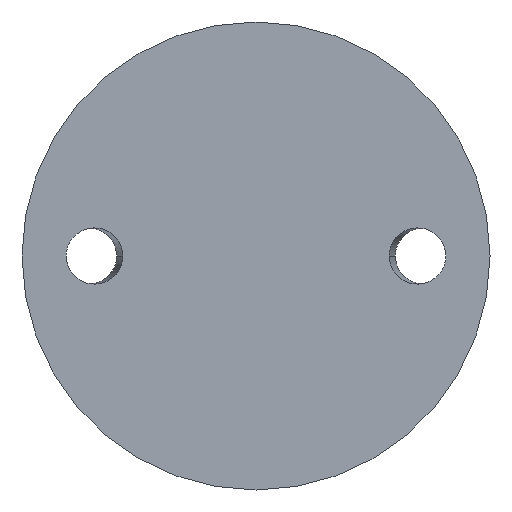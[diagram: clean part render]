
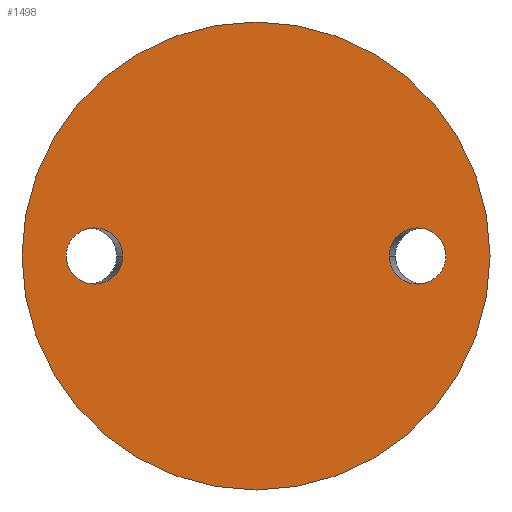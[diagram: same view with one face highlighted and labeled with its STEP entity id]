
A CAD part, front view. The second image highlights one B-rep face of the part: STEP entity #1498.
In plain terms, the highlighted planar face has unit normal (0, -1, 0).
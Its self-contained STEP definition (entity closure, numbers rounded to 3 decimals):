
#80 = CARTESIAN_POINT ( 'NONE',  ( -28.441, 0., 0. ) ) ;
#95 = AXIS2_PLACEMENT_3D ( 'NONE', #843, #534, #1346 ) ;
#101 = CARTESIAN_POINT ( 'NONE',  ( 40.559, 0., 12. ) ) ;
#102 = VERTEX_POINT ( 'NONE', #1554 ) ;
#137 = DIRECTION ( 'NONE',  ( 0., 1., 0. ) ) ;
#149 =( BOUNDED_CURVE ( )  B_SPLINE_CURVE ( 3, ( #1726, #101, #777, #1245 ),
 .UNSPECIFIED., .F., .F. ) 
 B_SPLINE_CURVE_WITH_KNOTS ( ( 4, 4 ),
 ( 0., 3.142 ),
 .UNSPECIFIED. ) 
 CURVE ( )  GEOMETRIC_REPRESENTATION_ITEM ( )  RATIONAL_B_SPLINE_CURVE ( ( 1., 0.333, 0.333, 1. ) ) 
 REPRESENTATION_ITEM ( '' )  );
#221 = ORIENTED_EDGE ( 'NONE', *, *, #1974, .F. ) ;
#271 = EDGE_CURVE ( 'NONE', #810, #1458, #149, .T. ) ;
#279 = CARTESIAN_POINT ( 'NONE',  ( -40.559, 0., 12. ) ) ;
#313 = CIRCLE ( 'NONE', #1469, 50. ) ;
#439 = EDGE_CURVE ( 'NONE', #549, #102, #1839, .T. ) ;
#503 = DIRECTION ( 'NONE',  ( 0., 0., 1. ) ) ;
#513 = ORIENTED_EDGE ( 'NONE', *, *, #439, .F. ) ;
#516 = VERTEX_POINT ( 'NONE', #1539 ) ;
#534 = DIRECTION ( 'NONE',  ( 0., 1., 0. ) ) ;
#545 = EDGE_CURVE ( 'NONE', #516, #568, #313, .T. ) ;
#549 = VERTEX_POINT ( 'NONE', #780 ) ;
#568 = VERTEX_POINT ( 'NONE', #1711 ) ;
#680 = ORIENTED_EDGE ( 'NONE', *, *, #545, .F. ) ;
#737 = CARTESIAN_POINT ( 'NONE',  ( -28.441, 0., 12. ) ) ;
#777 = CARTESIAN_POINT ( 'NONE',  ( 28.441, 0., 12. ) ) ;
#780 = CARTESIAN_POINT ( 'NONE',  ( -28.441, 0., 0. ) ) ;
#793 = CARTESIAN_POINT ( 'NONE',  ( -40.559, 0., 0. ) ) ;
#800 = CARTESIAN_POINT ( 'NONE',  ( -40.559, 0., -12. ) ) ;
#810 = VERTEX_POINT ( 'NONE', #1892 ) ;
#843 = CARTESIAN_POINT ( 'NONE',  ( 50., 0., 0. ) ) ;
#844 = EDGE_CURVE ( 'NONE', #102, #549, #1060, .T. ) ;
#853 = CARTESIAN_POINT ( 'NONE',  ( 40.559, 0., 0. ) ) ;
#954 = ORIENTED_EDGE ( 'NONE', *, *, #1056, .F. ) ;
#961 = CARTESIAN_POINT ( 'NONE',  ( 28.441, 0., 0. ) ) ;
#992 =( BOUNDED_CURVE ( )  B_SPLINE_CURVE ( 3, ( #961, #1749, #1018, #853 ),
 .UNSPECIFIED., .F., .F. ) 
 B_SPLINE_CURVE_WITH_KNOTS ( ( 4, 4 ),
 ( 3.142, 6.283 ),
 .UNSPECIFIED. ) 
 CURVE ( )  GEOMETRIC_REPRESENTATION_ITEM ( )  RATIONAL_B_SPLINE_CURVE ( ( 1., 0.333, 0.333, 1. ) ) 
 REPRESENTATION_ITEM ( '' )  );
#1013 = FACE_BOUND ( 'NONE', #1383, .T. ) ;
#1018 = CARTESIAN_POINT ( 'NONE',  ( 40.559, 0., -12. ) ) ;
#1056 = EDGE_CURVE ( 'NONE', #1458, #810, #992, .T. ) ;
#1060 =( BOUNDED_CURVE ( )  B_SPLINE_CURVE ( 3, ( #793, #800, #1432, #1563 ),
 .UNSPECIFIED., .F., .F. ) 
 B_SPLINE_CURVE_WITH_KNOTS ( ( 4, 4 ),
 ( 0., 3.142 ),
 .UNSPECIFIED. ) 
 CURVE ( )  GEOMETRIC_REPRESENTATION_ITEM ( )  RATIONAL_B_SPLINE_CURVE ( ( 1., 0.333, 0.333, 1. ) ) 
 REPRESENTATION_ITEM ( '' )  );
#1166 = CARTESIAN_POINT ( 'NONE',  ( 0., 0., 0. ) ) ;
#1196 = PLANE ( 'NONE',  #95 ) ;
#1245 = CARTESIAN_POINT ( 'NONE',  ( 28.441, 0., 0. ) ) ;
#1275 = DIRECTION ( 'NONE',  ( 0., 0., 1. ) ) ;
#1346 = DIRECTION ( 'NONE',  ( 0., 0., 1. ) ) ;
#1363 = CIRCLE ( 'NONE', #2078, 50. ) ;
#1383 = EDGE_LOOP ( 'NONE', ( #954, #1773 ) ) ;
#1404 = CARTESIAN_POINT ( 'NONE',  ( -40.559, 0., 0. ) ) ;
#1432 = CARTESIAN_POINT ( 'NONE',  ( -28.441, 0., -12. ) ) ;
#1441 = EDGE_LOOP ( 'NONE', ( #2045, #513 ) ) ;
#1458 = VERTEX_POINT ( 'NONE', #1649 ) ;
#1469 = AXIS2_PLACEMENT_3D ( 'NONE', #1579, #137, #1275 ) ;
#1498 = ADVANCED_FACE ( 'NONE', ( #2028, #1700, #1013 ), #1196, .F. ) ;
#1539 = CARTESIAN_POINT ( 'NONE',  ( 0., 0., -50. ) ) ;
#1554 = CARTESIAN_POINT ( 'NONE',  ( -40.559, 0., 0. ) ) ;
#1563 = CARTESIAN_POINT ( 'NONE',  ( -28.441, 0., 0. ) ) ;
#1579 = CARTESIAN_POINT ( 'NONE',  ( 0., 0., 0. ) ) ;
#1624 = DIRECTION ( 'NONE',  ( 0., 1., 0. ) ) ;
#1645 = EDGE_LOOP ( 'NONE', ( #221, #680 ) ) ;
#1649 = CARTESIAN_POINT ( 'NONE',  ( 28.441, 0., 0. ) ) ;
#1700 = FACE_BOUND ( 'NONE', #1441, .T. ) ;
#1711 = CARTESIAN_POINT ( 'NONE',  ( 0., 0., 50. ) ) ;
#1726 = CARTESIAN_POINT ( 'NONE',  ( 40.559, 0., 0. ) ) ;
#1749 = CARTESIAN_POINT ( 'NONE',  ( 28.441, 0., -12. ) ) ;
#1773 = ORIENTED_EDGE ( 'NONE', *, *, #271, .F. ) ;
#1839 =( BOUNDED_CURVE ( )  B_SPLINE_CURVE ( 3, ( #80, #737, #279, #1404 ),
 .UNSPECIFIED., .F., .T. ) 
 B_SPLINE_CURVE_WITH_KNOTS ( ( 4, 4 ),
 ( 3.142, 6.283 ),
 .UNSPECIFIED. ) 
 CURVE ( )  GEOMETRIC_REPRESENTATION_ITEM ( )  RATIONAL_B_SPLINE_CURVE ( ( 1., 0.333, 0.333, 1. ) ) 
 REPRESENTATION_ITEM ( '' )  );
#1892 = CARTESIAN_POINT ( 'NONE',  ( 40.559, 0., 0. ) ) ;
#1974 = EDGE_CURVE ( 'NONE', #568, #516, #1363, .T. ) ;
#2028 = FACE_OUTER_BOUND ( 'NONE', #1645, .T. ) ;
#2045 = ORIENTED_EDGE ( 'NONE', *, *, #844, .F. ) ;
#2078 = AXIS2_PLACEMENT_3D ( 'NONE', #1166, #1624, #503 ) ;
